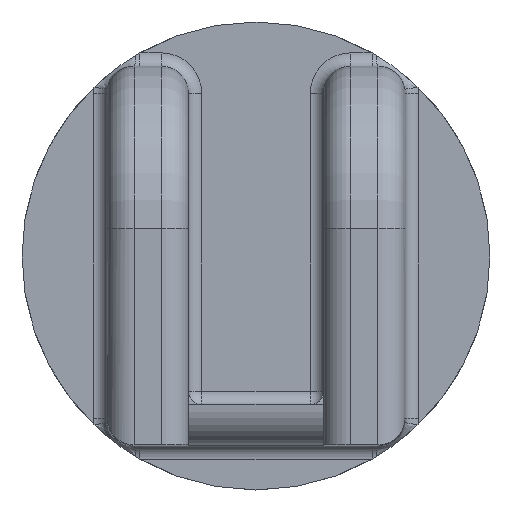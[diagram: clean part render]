
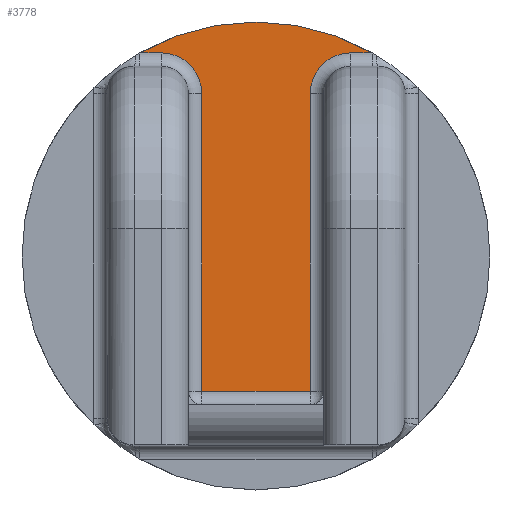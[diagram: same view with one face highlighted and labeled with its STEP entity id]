
A CAD part, top view. The second image highlights one B-rep face of the part: STEP entity #3778.
In plain terms, the highlighted planar face has unit normal (0, 0, 1).
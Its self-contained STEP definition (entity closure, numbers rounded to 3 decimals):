
#40 = CARTESIAN_POINT ( 'NONE',  ( 7., 15., 40. ) ) ;
#130 = CARTESIAN_POINT ( 'NONE',  ( 7., 12., 40. ) ) ;
#137 = VERTEX_POINT ( 'NONE', #40 ) ;
#344 = DIRECTION ( 'NONE',  ( 1., 0., 0. ) ) ;
#371 = CARTESIAN_POINT ( 'NONE',  ( 8.576, 15., 40. ) ) ;
#409 = CARTESIAN_POINT ( 'NONE',  ( -7., 15., 40. ) ) ;
#419 = ORIENTED_EDGE ( 'NONE', *, *, #2316, .T. ) ;
#990 = VECTOR ( 'NONE', #2396, 1000. ) ;
#1151 = VERTEX_POINT ( 'NONE', #2251 ) ;
#1349 = CARTESIAN_POINT ( 'NONE',  ( -7., 14., 40. ) ) ;
#1359 = CARTESIAN_POINT ( 'NONE',  ( -8.576, 15., 40. ) ) ;
#1391 = CIRCLE ( 'NONE', #3322, 3. ) ;
#1426 = VECTOR ( 'NONE', #6029, 1000. ) ;
#1556 = CARTESIAN_POINT ( 'NONE',  ( -7., 12., 40. ) ) ;
#1735 = DIRECTION ( 'NONE',  ( 1., 0., 0. ) ) ;
#1754 = ORIENTED_EDGE ( 'NONE', *, *, #2221, .T. ) ;
#1914 = LINE ( 'NONE', #3233, #5841 ) ;
#2025 = VECTOR ( 'NONE', #1735, 1000. ) ;
#2054 = VERTEX_POINT ( 'NONE', #4403 ) ;
#2195 = CARTESIAN_POINT ( 'NONE',  ( 0., 0., 40. ) ) ;
#2221 = EDGE_CURVE ( 'NONE', #3122, #2054, #3424, .T. ) ;
#2251 = CARTESIAN_POINT ( 'NONE',  ( 4., 12., 40. ) ) ;
#2277 = DIRECTION ( 'NONE',  ( 1., 0., 0. ) ) ;
#2316 = EDGE_CURVE ( 'NONE', #1151, #137, #7162, .T. ) ;
#2384 = DIRECTION ( 'NONE',  ( 0., 1., 0. ) ) ;
#2396 = DIRECTION ( 'NONE',  ( 1., 0., 0. ) ) ;
#2458 = CARTESIAN_POINT ( 'NONE',  ( 5., -10., 40. ) ) ;
#2623 = FACE_OUTER_BOUND ( 'NONE', #7011, .T. ) ;
#2651 = VECTOR ( 'NONE', #4250, 1000. ) ;
#2735 = DIRECTION ( 'NONE',  ( 0., 0., -1. ) ) ;
#2887 = LINE ( 'NONE', #409, #2651 ) ;
#2899 = VERTEX_POINT ( 'NONE', #371 ) ;
#2934 = VERTEX_POINT ( 'NONE', #4855 ) ;
#3003 = EDGE_CURVE ( 'NONE', #2054, #2934, #8244, .T. ) ;
#3122 = VERTEX_POINT ( 'NONE', #6992 ) ;
#3224 = VERTEX_POINT ( 'NONE', #7843 ) ;
#3233 = CARTESIAN_POINT ( 'NONE',  ( 4., 14., 40. ) ) ;
#3268 = ORIENTED_EDGE ( 'NONE', *, *, #3003, .T. ) ;
#3316 = CIRCLE ( 'NONE', #7819, 17.279 ) ;
#3322 = AXIS2_PLACEMENT_3D ( 'NONE', #1556, #4159, #4116 ) ;
#3424 = LINE ( 'NONE', #7904, #1426 ) ;
#3466 = ORIENTED_EDGE ( 'NONE', *, *, #4911, .T. ) ;
#3480 = AXIS2_PLACEMENT_3D ( 'NONE', #130, #2735, #4743 ) ;
#3761 = ORIENTED_EDGE ( 'NONE', *, *, #3882, .T. ) ;
#3778 = ADVANCED_FACE ( 'NONE', ( #2623 ), #7834, .T. ) ;
#3882 = EDGE_CURVE ( 'NONE', #6895, #3224, #6922, .T. ) ;
#4114 = DIRECTION ( 'NONE',  ( 0., 0., 1. ) ) ;
#4116 = DIRECTION ( 'NONE',  ( 1., 0., 0. ) ) ;
#4159 = DIRECTION ( 'NONE',  ( 0., 0., -1. ) ) ;
#4204 = EDGE_CURVE ( 'NONE', #2899, #6895, #3316, .T. ) ;
#4250 = DIRECTION ( 'NONE',  ( 1., 0., 0. ) ) ;
#4397 = AXIS2_PLACEMENT_3D ( 'NONE', #1349, #7602, #344 ) ;
#4403 = CARTESIAN_POINT ( 'NONE',  ( -4., -10., 40. ) ) ;
#4743 = DIRECTION ( 'NONE',  ( 1., 0., 0. ) ) ;
#4853 = ORIENTED_EDGE ( 'NONE', *, *, #7183, .T. ) ;
#4855 = CARTESIAN_POINT ( 'NONE',  ( 4., -10., 40. ) ) ;
#4911 = EDGE_CURVE ( 'NONE', #2934, #1151, #1914, .T. ) ;
#5381 = ORIENTED_EDGE ( 'NONE', *, *, #4204, .T. ) ;
#5399 = CARTESIAN_POINT ( 'NONE',  ( -7., 15., 40. ) ) ;
#5841 = VECTOR ( 'NONE', #2384, 1000. ) ;
#6029 = DIRECTION ( 'NONE',  ( 0., -1., 0. ) ) ;
#6090 = EDGE_CURVE ( 'NONE', #3224, #3122, #1391, .T. ) ;
#6895 = VERTEX_POINT ( 'NONE', #1359 ) ;
#6922 = LINE ( 'NONE', #5399, #990 ) ;
#6992 = CARTESIAN_POINT ( 'NONE',  ( -4., 12., 40. ) ) ;
#7011 = EDGE_LOOP ( 'NONE', ( #5381, #3761, #8107, #1754, #3268, #3466, #419, #4853 ) ) ;
#7162 = CIRCLE ( 'NONE', #3480, 3. ) ;
#7183 = EDGE_CURVE ( 'NONE', #137, #2899, #2887, .T. ) ;
#7602 = DIRECTION ( 'NONE',  ( 0., 0., 1. ) ) ;
#7819 = AXIS2_PLACEMENT_3D ( 'NONE', #2195, #4114, #2277 ) ;
#7834 = PLANE ( 'NONE',  #4397 ) ;
#7843 = CARTESIAN_POINT ( 'NONE',  ( -7., 15., 40. ) ) ;
#7904 = CARTESIAN_POINT ( 'NONE',  ( -4., 14., 40. ) ) ;
#8107 = ORIENTED_EDGE ( 'NONE', *, *, #6090, .T. ) ;
#8244 = LINE ( 'NONE', #2458, #2025 ) ;
